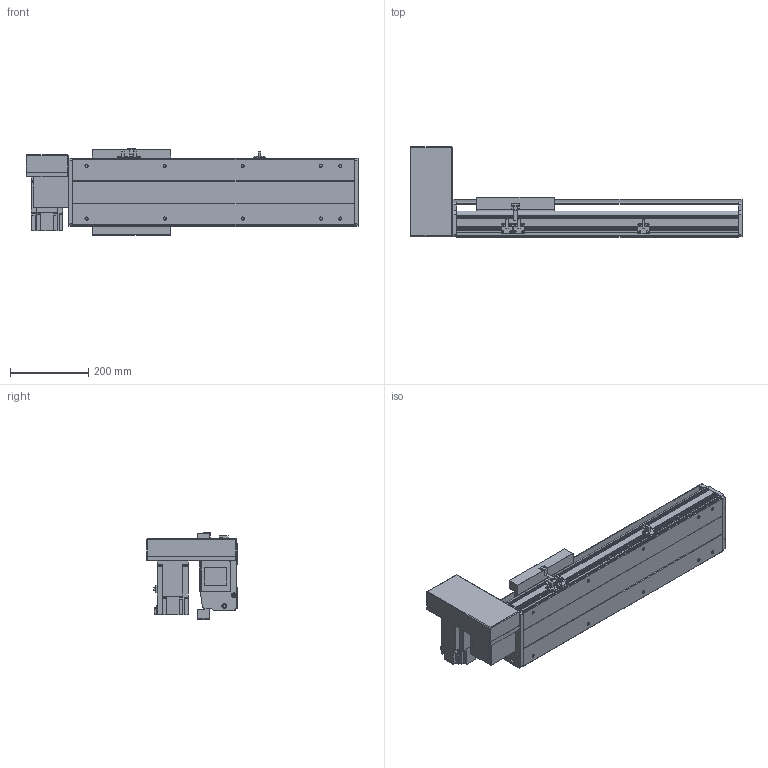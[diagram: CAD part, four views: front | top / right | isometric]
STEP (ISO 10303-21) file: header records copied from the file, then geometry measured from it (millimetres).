
FILE_DESCRIPTION(/* description */ ('STEP AP214'),/* implementation_level */ '2;1');
FILE_NAME(/* name */ 'PBS200-P40-S350-RU-T75-C1-N(0)',/* time_stamp */ '2022-06-11T09:34:09+02:00',/* author */ ('License CC BY-ND 4.0'),/* organization */ ('CADENAS'),/* preprocessor_version */ 'ST-DEVELOPER v18.102',/* originating_system */ 'PARTsolutions',/* authorisation */ ' ');
FILE_SCHEMA (('AUTOMOTIVE_DESIGN {1 0 10303 214 3 1 1}'));
Length unit declared in the file: millimetre
Products named in the file (7): PBS200-P40-S350-RU-T75-C1-N(0); PBS200_sensor; PBS200_plant; PBS200_sliser; T75-p1; PBS200T-RU_motors; PBS200-S350()_body
Assembly tree (8 placements, depth 2):
  PBS200-P40-S350-RU-T75-C1-N(0)
    PBS200_sensor  x3
    PBS200_plant
    PBS200_sliser
    T75-p1
    PBS200T-RU_motors
    PBS200-S350()_body
Bounding box: 850 x 231 x 221 mm (x, y, z)
Volume: 7177997.2 mm3; surface area: 1179841.5 mm2
Topology: 8 solids, 8 shells, 902 faces, 2344 edges, 1530 vertices
Faces by surface type: plane 568, cylinder 292, cone 42
Full cylindrical faces by diameter (mm): 2.459 x6, 3.242 x4, 4.5 x6, 4.917 x4, 5 x6, 6 x7, 6.6 x8, 6.647 x14, 8 x6, 10 x4, 12 x8, 38 x2, 40 x1, 70 x1
Entity records: 24221 total; most frequent: DIRECTION 4255, CARTESIAN_POINT 4138, ORIENTED_EDGE 3946, EDGE_CURVE 1973, AXIS2_PLACEMENT_3D 1471, VERTEX_POINT 1354, LINE 1313, VECTOR 1313
